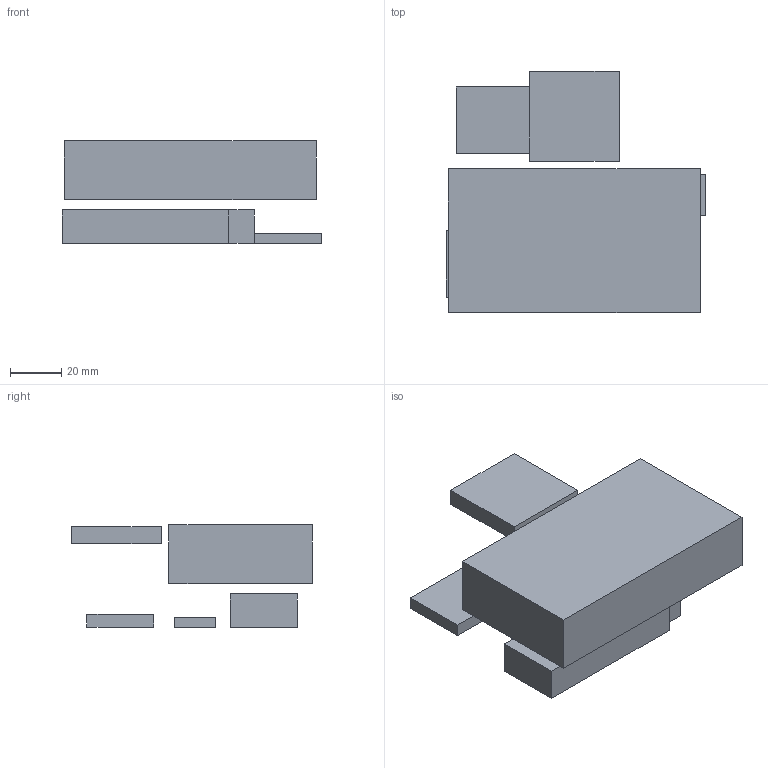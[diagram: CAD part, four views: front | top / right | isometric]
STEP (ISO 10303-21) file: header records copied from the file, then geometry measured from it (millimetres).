
FILE_DESCRIPTION(('Open CASCADE Model'),'2;1');
FILE_NAME('Open CASCADE Shape Model','2026-11-06T11:30:51',('Author'),( 'Open CASCADE'),'Open CASCADE STEP processor 7.8','Open CASCADE 7.8' ,'Unknown');
FILE_SCHEMA(('AUTOMOTIVE_DESIGN { 1 0 10303 214 1 1 1 1 }'));
Length unit declared in the file: millimetre
Products named in the file (7): Measured_component_envelopes_NOT_FOR_PRINT; Display_envelope_-_connector_depth_included; ESP32_envelope; SD_protrusion_allowance; IMU_envelope_-_height_provisional; GPS_module; Antenna_envelope
Assembly tree (6 placements, depth 2):
  Measured_component_envelopes_NOT_FOR_PRINT
    Display_envelope_-_connector_depth_included
    ESP32_envelope
    SD_protrusion_allowance
    IMU_envelope_-_height_provisional
    GPS_module
    Antenna_envelope
Bounding box: 101.3 x 94 x 40 mm (x, y, z)
Volume: 165491.1 mm3; surface area: 32001.4 mm2
Topology: 6 solids, 6 shells, 36 faces, 72 edges, 48 vertices
Faces by surface type: plane 36
Entity records: 2013 total; most frequent: CARTESIAN_POINT 307, DIRECTION 302, LINE 216, VECTOR 216, ORIENTED_EDGE 144, PCURVE 144, DEFINITIONAL_REPRESENTATION 144, EDGE_CURVE 72
